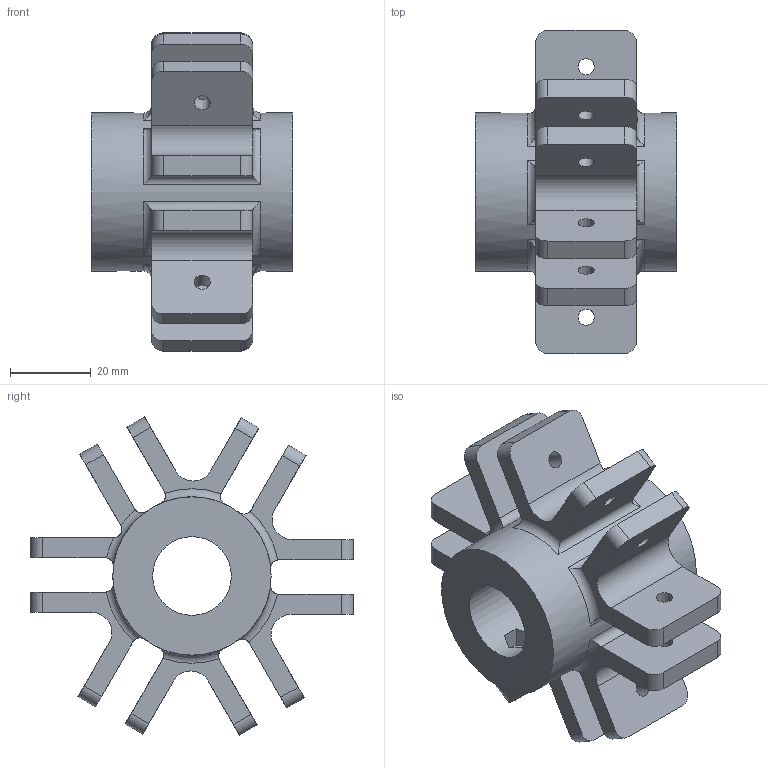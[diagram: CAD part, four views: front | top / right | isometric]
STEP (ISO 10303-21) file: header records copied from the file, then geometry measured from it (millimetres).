
FILE_DESCRIPTION(/* description */ (''),/* implementation_level */ '2;1');
FILE_NAME(/* name */ '',/* time_stamp */ '2023-07-05T14:09:33+09:00',/* author */ (''),/* organization */ (''),/* preprocessor_version */ 'ST-DEVELOPER v19.2',/* originating_system */ 'Autodesk Translation Framework v12.6.0.85',/* authorisation */ '');
FILE_SCHEMA (('AUTOMOTIVE_DESIGN { 1 0 10303 214 3 1 1 }'));
Length unit declared in the file: millimetre
Products named in the file (1): ホイール
Bounding box: 50 x 80 x 78.78 mm (x, y, z)
Volume: 79277.8 mm3; surface area: 25928.7 mm2
Topology: 1 solids, 1 shells, 128 faces, 358 edges, 239 vertices
Faces by surface type: plane 59, cylinder 57, torus 12
Full cylindrical faces by diameter (mm): 4 x12, 4.1 x1, 19.5 x1, 39.205 x1
Entity records: 4592 total; most frequent: CARTESIAN_POINT 1122, DIRECTION 725, ORIENTED_EDGE 716, EDGE_CURVE 358, AXIS2_PLACEMENT_3D 270, VERTEX_POINT 239, LINE 185, VECTOR 185
